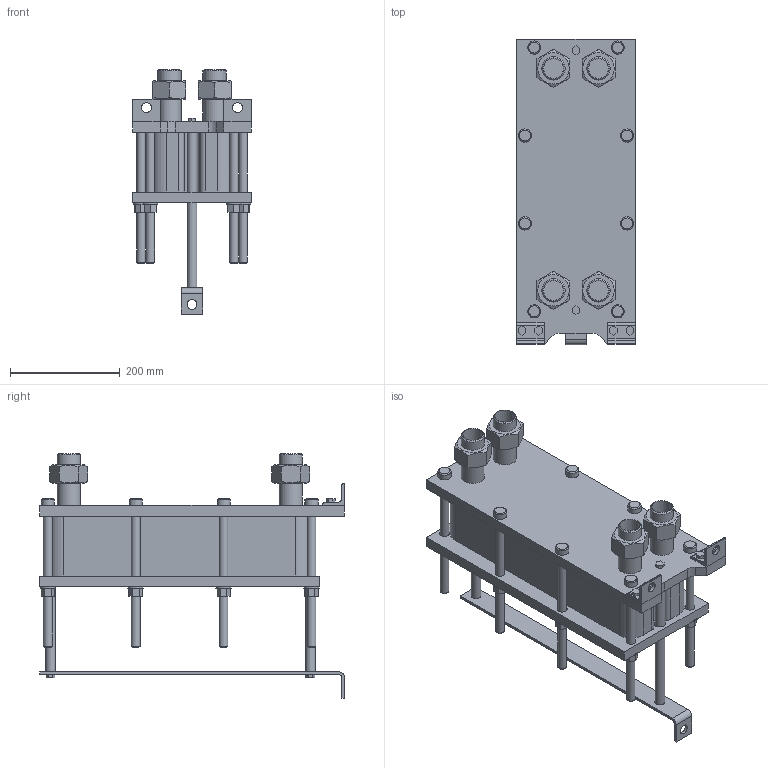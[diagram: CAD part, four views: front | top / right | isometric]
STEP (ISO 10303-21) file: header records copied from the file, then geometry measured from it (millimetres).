
FILE_DESCRIPTION(/* description */ (''),/* implementation_level */ '2;1');
FILE_NAME(/* name */ 'C:\Users\zhuro\Desktop\ENCO\TO\ЭН-004\ЭН-0,5-004-35-1.stp',/* time_stamp */ '2022-06-06T10:45:58+03:00',/* author */ ('zhuro'),/* organization */ (''),/* preprocessor_version */ 'ST-DEVELOPER v18.1',/* originating_system */ 'Autodesk Inventor 2022',/* authorisation */ '');
FILE_SCHEMA (('AUTOMOTIVE_DESIGN { 1 0 10303 214 3 1 1 }'));
Length unit declared in the file: millimetre
Products named in the file (1): ЭН-0,5-004-35-1
Bounding box: 216 x 555 x 445 mm (x, y, z)
Volume: 13663424.1 mm3; surface area: 1193975.2 mm2
Topology: 40 solids, 40 shells, 403 faces, 865 edges, 574 vertices
Faces by surface type: plane 272, cylinder 103, cone 28
Full cylindrical faces by diameter (mm): 10 x4, 16 x16, 18 x29, 20 x2, 24 x8, 28 x8, 36.3 x5, 42.3 x9
Entity records: 11137 total; most frequent: CARTESIAN_POINT 1939, DIRECTION 1879, ORIENTED_EDGE 1730, EDGE_CURVE 865, AXIS2_PLACEMENT_3D 658, VERTEX_POINT 574, LINE 563, VECTOR 563
